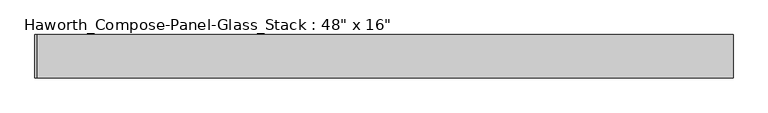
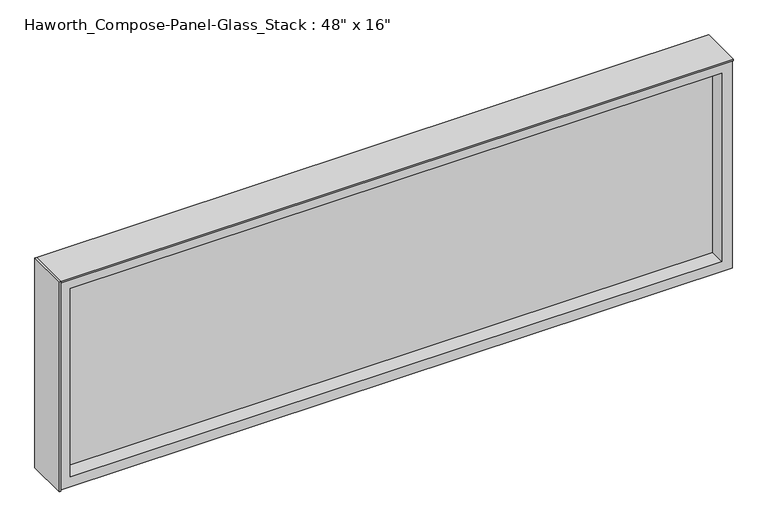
"""IFC4 building model written with IfcOpenShell, lengths in millimetres: furniture geometry."""

from ifc_helpers import new_model, si_unit, frame, origin, place, context, project, spatial, polyline, outline, extrude, source, transform, mapped, element, save


def furniture_53800ec9(model_context):
    return source(origin(), model_context, "Body", "SweptSolid", [
        extrude(outline(polyline([(-610.3347098, -38.1), (-610.3347098, 38.1), (-607.1597098, 38.1), (-607.1597098, -38.1), (-610.3347098, -38.1)])), frame((0.0, 0.0, 1066.8), z_axis=(0.0, 0.0, 1.0), x_axis=(1.0, 0.0, 0.0)), (0.0, 0.0, 1.0), 403.225),
        extrude(outline(polyline([(592.9902902, -6.35), (-588.1097098, -6.35), (-588.1097098, 6.35), (592.9902902, 6.35), (592.9902902, -6.35)])), frame((0.0, 0.0, 1085.85), z_axis=(0.0, 0.0, 1.0), x_axis=(1.0, 0.0, 0.0)), (0.0, 0.0, 1.0), 361.95),
        extrude(outline(polyline([(1466.85, -607.1597098), (1066.8, -607.1597098), (1066.8, 612.0402902), (1466.85, 612.0402902), (1466.85, -607.1597098)]), holes=[polyline([(1447.8, 592.9902902), (1085.85, 592.9902902), (1085.85, -588.1097098), (1447.8, -588.1097098), (1447.8, 592.9902902)])]), frame((0.0, -34.925, 0.0), z_axis=(0.0, 1.0, 0.0), x_axis=(0.0, 0.0, 1.0)), (0.0, 0.0, 1.0), 69.85),
        extrude(outline(polyline([(-607.1597098, -38.1), (-607.1597098, 38.1), (612.0402902, 38.1), (612.0402902, -38.1), (-607.1597098, -38.1)])), frame((0.0, 0.0, 1466.85), z_axis=(0.0, 0.0, 1.0), x_axis=(1.0, 0.0, 0.0)), (0.0, 0.0, 1.0), 3.175),
    ])


if __name__ == "__main__":
    model = new_model("IFC4")
    model_context = context("Model", 3, world=origin())
    ifc_project = project(units=[si_unit("LENGTHUNIT", "METRE", prefix="MILLI")], contexts=[model_context])
    site = spatial("IfcSite", under=ifc_project)
    building = spatial("IfcBuilding", under=site)
    placement = place(None, origin())
    furniture_shape = furniture_53800ec9(model_context)
    element("IfcFurniture", 1, ObjectType="Haworth_Compose-Panel-Glass_Stack : 48\" x 16\"", at=placement, inside=building, context=model_context, shape_type="MappedRepresentation", body=[
        mapped(furniture_shape, transform((0.0, 0.0, 0.0), x_axis=(1.0, 0.0, 0.0), y_axis=(0.0, 1.0, 0.0), z_axis=(0.0, 0.0, 1.0))),
    ])
    save(model, "model.ifc")
